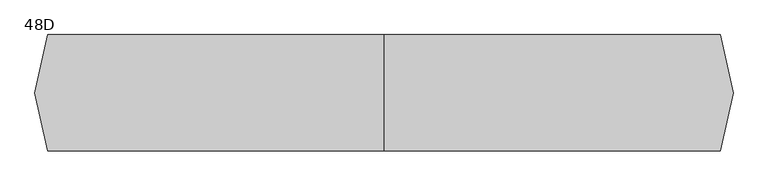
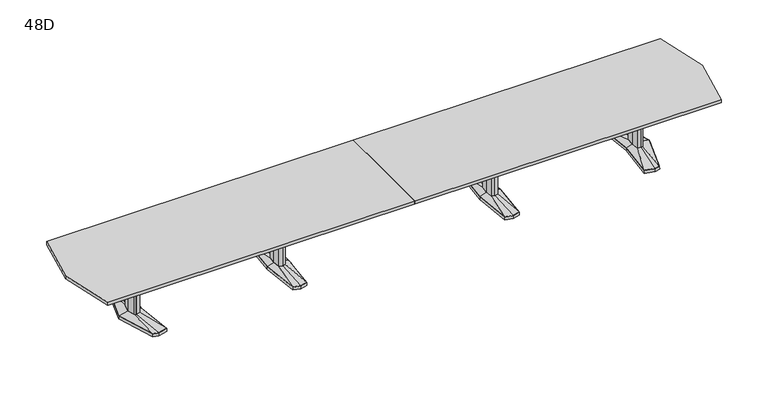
"""IFC4 building model written with IfcOpenShell, lengths in millimetres: furniture geometry, Coalesse_AM_Table_Conference_ETable2_Faceted_24ft_AluminiumBase : 48D."""

import ifcopenshell
import ifcopenshell.guid

model = None  # the IFC model being written
_history = None  # IfcOwnerHistory: only IFC2X3 demands one
_inside = {}  # id of a spatial element -> (the spatial element, [elements in it])
_under = {}  # id of a project, library or spatial element -> (it, [spatial elements below it])
_declared = {}  # id of a project -> (the project, [libraries it declares])
_typed = {}  # id of a type object -> (the type object, [elements of that type])
_made_of = {}  # id of a material, layer set ... -> (it, [elements and type objects made of it])


def new_model(schema):
    """Start an empty IFC model of exactly this schema.

    Asked for "IFC4X3", IfcOpenShell would pick the latest addendum, in which some entities
    have other attributes; the version numbers below select the first issue.
    IFC2X3 requires an IfcOwnerHistory on every rooted entity: one is made here for all.
    """
    global model, _history
    if schema == "IFC4X3":
        model = ifcopenshell.file(schema_version=(4, 3, 0, 0))
    else:
        model = ifcopenshell.file(schema=schema)
    _inside.clear()
    _under.clear()
    _declared.clear()
    _typed.clear()
    _made_of.clear()
    _history = None
    if model.schema == "IFC2X3":
        org = make("IfcOrganization", Name="unknown")
        user = make(
            "IfcPersonAndOrganization",
            ThePerson=make("IfcPerson", FamilyName="unknown"),
            TheOrganization=org,
        )
        app = make(
            "IfcApplication",
            ApplicationDeveloper=org,
            Version="unknown",
            ApplicationFullName="unknown",
            ApplicationIdentifier="unknown",
        )
        _history = make(
            "IfcOwnerHistory",
            OwningUser=user,
            OwningApplication=app,
            ChangeAction="ADDED",
            CreationDate=0,
        )
    return model


def make(cls, **values):
    """One entity of the class cls with the attributes given. An attribute that is None is left unset."""
    return model.create_entity(
        cls, **{name: value for name, value in values.items() if value is not None}
    )


def rooted(cls, **values):
    """An entity with a GlobalId (a new one), such as an element, a storey or a relation."""
    return make(cls, GlobalId=ifcopenshell.guid.new(), OwnerHistory=_history, **values)


def si_unit(unit_type, name, prefix=None):
    """IfcSIUnit, for example si_unit("LENGTHUNIT", "METRE", prefix="MILLI")."""
    return make("IfcSIUnit", UnitType=unit_type, Prefix=prefix, Name=name)


def assignment(units):
    """IfcUnitAssignment: the units of a project."""
    return None if units is None else make("IfcUnitAssignment", Units=units)


def point(xyz):
    """IfcCartesianPoint."""
    return None if xyz is None else make("IfcCartesianPoint", Coordinates=xyz)


def direction(xyz):
    """IfcDirection."""
    return None if xyz is None else make("IfcDirection", DirectionRatios=xyz)


def frame(location, z_axis=None, x_axis=None):
    """IfcAxis2Placement3D, a coordinate frame: its origin and axes. An axis left out is left unset."""
    return make(
        "IfcAxis2Placement3D",
        Location=point(location),
        Axis=direction(z_axis),
        RefDirection=direction(x_axis),
    )


def origin():
    """The frame at (0, 0, 0) with its axes left unset."""
    return frame((0.0, 0.0, 0.0))


def place(relative_to, where):
    """IfcLocalPlacement: puts the frame where relative to a parent placement (None: the world)."""
    return make(
        "IfcLocalPlacement", PlacementRelTo=relative_to, RelativePlacement=where
    )


def context(
    kind, dimensions, precision=None, world=None, true_north=None, identifier=None
):
    """IfcGeometricRepresentationContext, for example the 3D "Model" context."""
    return make(
        "IfcGeometricRepresentationContext",
        ContextIdentifier=identifier,
        ContextType=kind,
        CoordinateSpaceDimension=dimensions,
        Precision=precision,
        WorldCoordinateSystem=world,
        TrueNorth=true_north,
    )


def project(units=None, contexts=None):
    """IfcProject with its units and contexts."""
    return rooted(
        "IfcProject",
        Name="project",
        RepresentationContexts=contexts,
        UnitsInContext=assignment(units),
    )


def spatial(cls, under=None, at=None, **own):
    """A site, building, storey or space (cls), placed at a placement, below another one or the project."""
    s = rooted(cls, ObjectPlacement=at, **own)
    if under is not None:
        _under.setdefault(under.id(), (under, []))[1].append(s)
    return s


def polyline(points):
    """IfcPolyline through the points."""
    return make("IfcPolyline", Points=[point(p) for p in points])


def outline(outer, holes=None, kind="AREA"):
    """IfcArbitraryClosedProfileDef: a profile drawn as a closed curve; with holes, ...WithVoids."""
    if holes is None:
        return make("IfcArbitraryClosedProfileDef", ProfileType=kind, OuterCurve=outer)
    return make(
        "IfcArbitraryProfileDefWithVoids",
        ProfileType=kind,
        OuterCurve=outer,
        InnerCurves=holes,
    )


def extrude(swept, where, along, depth):
    """IfcExtrudedAreaSolid: the profile swept, set in the frame where, extruded along a direction by depth."""
    return make(
        "IfcExtrudedAreaSolid",
        SweptArea=swept,
        Position=where,
        ExtrudedDirection=direction(along),
        Depth=depth,
    )


def faces_of(points, faces, orient=None, outer=None):
    """IfcFace entities. A face is a list of loops; a loop is a list of indices into points, from 0.

    orient and outer hold one flag for each loop. By default every Orientation is true, the
    first loop of a face is its IfcFaceOuterBound and the others are IfcFaceBound.
    """
    made = []
    for i, loops in enumerate(faces):
        bounds = []
        for j, loop in enumerate(loops):
            is_outer = j == 0 if outer is None else outer[i][j]
            bounds.append(
                make(
                    "IfcFaceOuterBound" if is_outer else "IfcFaceBound",
                    Bound=make("IfcPolyLoop", Polygon=[points[k] for k in loop]),
                    Orientation=True if orient is None else orient[i][j],
                )
            )
        made.append(make("IfcFace", Bounds=bounds))
    return made


def faceted_brep(points, faces, orient=None, outer=None, voids=None):
    """IfcFacetedBrep: a solid bounded by flat faces; with voids (closed shells), ...WithVoids."""
    shared = [point(p) for p in points]
    hull = make("IfcClosedShell", CfsFaces=faces_of(shared, faces, orient, outer))
    if voids is None:
        return make("IfcFacetedBrep", Outer=hull)
    return make(
        "IfcFacetedBrepWithVoids",
        Outer=hull,
        Voids=[
            make(cls, CfsFaces=faces_of(shared, fs, o, b)) for cls, fs, o, b in voids
        ],
    )


def shape(context_of_items, identifier, shape_type, items):
    """IfcShapeRepresentation: the items that make up one representation, for example the "Body"."""
    return make(
        "IfcShapeRepresentation",
        ContextOfItems=context_of_items,
        RepresentationIdentifier=identifier,
        RepresentationType=shape_type,
        Items=items,
    )


def source(mapping_origin, context_of_items, identifier, shape_type, items):
    """IfcRepresentationMap: a shape defined once, which mapped items show again and again."""
    return make(
        "IfcRepresentationMap",
        MappingOrigin=mapping_origin,
        MappedRepresentation=shape(context_of_items, identifier, shape_type, items),
    )


def transform(
    local_origin,
    x_axis=None,
    y_axis=None,
    z_axis=None,
    scale=None,
    scale2=None,
    scale3=None,
    uniform=True,
):
    """IfcCartesianTransformationOperator3D, or its non-uniform kind. x_axis, y_axis, z_axis: its Axis1, 2, 3."""
    if uniform:
        return make(
            "IfcCartesianTransformationOperator3D",
            Axis1=direction(x_axis),
            Axis2=direction(y_axis),
            LocalOrigin=point(local_origin),
            Scale=scale,
            Axis3=direction(z_axis),
        )
    return make(
        "IfcCartesianTransformationOperator3DnonUniform",
        Axis1=direction(x_axis),
        Axis2=direction(y_axis),
        LocalOrigin=point(local_origin),
        Scale=scale,
        Axis3=direction(z_axis),
        Scale2=scale2,
        Scale3=scale3,
    )


def mapped(mapping_source, mapping_target):
    """IfcMappedItem: shows the shape of a source again, moved by a transform."""
    return make(
        "IfcMappedItem", MappingSource=mapping_source, MappingTarget=mapping_target
    )


def made_of(thing, what):
    """Note that an element or type object is made of a material, layer set ...; save() writes the relation."""
    if what is not None:
        _made_of.setdefault(what.id(), (what, []))[1].append(thing)
    return thing


def element(
    cls,
    number,
    at=None,
    inside=None,
    cuts=None,
    type_object=None,
    material=None,
    context=None,
    identifier="Body",
    shape_type=None,
    held_by="IfcProductDefinitionShape",
    body=None,
    shapes=None,
    **own,
):
    """One element of the class cls, such as IfcWall. Its Tag is "e" and its number.

    at: its placement. inside: the storey or other place that contains it. cuts: it is an
    opening in that element (IfcRelVoidsElement). A single representation is given by context,
    identifier, shape_type and body (its items); several are given by shapes. held_by: the class
    of the entity that holds the representations. save() writes the other relations.
    """
    e = rooted(cls, Tag="e%d" % number, ObjectPlacement=at, **own)
    if body is not None:
        shapes = [shape(context, identifier, shape_type, body)]
    if shapes is not None:
        e.Representation = make(held_by, Representations=shapes)
    if inside is not None:
        _inside.setdefault(inside.id(), (inside, []))[1].append(e)
    if cuts is not None:
        rooted(
            "IfcRelVoidsElement", RelatingBuildingElement=cuts, RelatedOpeningElement=e
        )
    if type_object is not None:
        _typed.setdefault(type_object.id(), (type_object, []))[1].append(e)
    return made_of(e, material)


def aggregate(whole, parts):
    """IfcRelAggregates: a whole, such as a stair, and the parts it consists of."""
    return rooted("IfcRelAggregates", RelatingObject=whole, RelatedObjects=parts)


def save(model, path):
    """Write the relations noted so far, then the file.

    IfcRelAggregates (storeys below a building ...), IfcRelContainedInSpatialStructure (elements
    in a storey), IfcRelDefinesByType, IfcRelAssociatesMaterial and IfcRelDeclares: one each for
    every whole, place, type object, material and project.
    """
    for whole, parts in _under.values():
        aggregate(whole, parts)
    for where, things in _inside.values():
        rooted(
            "IfcRelContainedInSpatialStructure",
            RelatedElements=things,
            RelatingStructure=where,
        )
    for kind, things in _typed.values():
        rooted("IfcRelDefinesByType", RelatedObjects=things, RelatingType=kind)
    for what, things in _made_of.values():
        rooted("IfcRelAssociatesMaterial", RelatedObjects=things, RelatingMaterial=what)
    for by, libraries in _declared.values():
        rooted("IfcRelDeclares", RelatingContext=by, RelatedDefinitions=libraries)
    model.write(path)


def plane_surface(at):
    """IfcPlane: the flat surface through the origin of the frame at, square to its z axis."""
    return make("IfcPlane", Position=at)


def spline_surface(u_degree, v_degree, points, u_multiplicities, v_multiplicities, u_knots, v_knots, weights=None):
    """IfcBSplineSurfaceWithKnots; with weights, IfcRationalBSplineSurfaceWithKnots. points: one row for each step in u."""
    own = dict(
        UDegree=u_degree,
        VDegree=v_degree,
        ControlPointsList=[[point(p) for p in row] for row in points],
        SurfaceForm="UNSPECIFIED",
        UClosed=False,
        VClosed=False,
        SelfIntersect=False,
        UMultiplicities=u_multiplicities,
        VMultiplicities=v_multiplicities,
        UKnots=u_knots,
        VKnots=v_knots,
        KnotSpec="UNSPECIFIED",
    )
    if weights is None:
        return make("IfcBSplineSurfaceWithKnots", **own)
    return make("IfcRationalBSplineSurfaceWithKnots", WeightsData=weights, **own)


def advanced_brep(points, edges, surfaces, faces):
    """IfcAdvancedBrep: a solid bounded by faces that lie on surfaces and meet in shared edges.

    An edge is (start, end): straight between two places in points (the first is 0);
    or (start, end, curve); or (start, end, curve, False) where it runs against its curve.
    A face is (place in surfaces, loops), or (place, loops, False) where it looks against
    its surface's normal. A loop lists edges by number (the first is 1), with a minus sign
    where the edge is run from its end to its start. The first loop is the outer one.
    """
    corners = [point(p) for p in points]
    vertices = [make("IfcVertexPoint", VertexGeometry=c) for c in corners]
    made = []
    for start, end, *more in edges:
        made.append(
            make(
                "IfcEdgeCurve",
                EdgeStart=vertices[start],
                EdgeEnd=vertices[end],
                EdgeGeometry=more[0] if more else make("IfcPolyline", Points=[corners[start], corners[end]]),
                SameSense=more[1] if len(more) > 1 else True,
            )
        )
    hull = []
    for where, loops, *sense in faces:
        bounds = []
        for j, loop in enumerate(loops):
            ring = [make("IfcOrientedEdge", EdgeElement=made[abs(k) - 1], Orientation=k > 0) for k in loop]
            bounds.append(
                make(
                    "IfcFaceOuterBound" if j == 0 else "IfcFaceBound",
                    Bound=make("IfcEdgeLoop", EdgeList=ring),
                    Orientation=True,
                )
            )
        hull.append(make("IfcAdvancedFace", Bounds=bounds, FaceSurface=surfaces[where], SameSense=sense[0] if sense else True))
    return make("IfcAdvancedBrep", Outer=make("IfcClosedShell", CfsFaces=hull))


def furniture_48d_af3dbdf1(model_context):
    return source(origin(), model_context, "Body", "SolidModel", [
        faceted_brep([(1137.9666209, -433.8053819, 38.1), (1219.2, -455.556576, 38.1), (1300.4333791, -433.8053819, 38.1), (1338.2564774, 0.0, 38.1), (1300.4333791, 433.8053819, 38.1), (1219.2, 455.556576, 38.1), (1137.9666209, 433.8053819, 38.1), (1100.1435226, 0.0, 38.1), (1136.4817205, -435.0512063, 3.175), (1098.55, 0.0, 3.175), (1136.4817205, 435.0512063, 3.175), (1219.2, 457.2, 3.175), (1301.9182795, 435.0512063, 3.175), (1339.85, 0.0, 3.175), (1301.9182795, -435.0512063, 3.175), (1219.2, -457.2, 3.175), (1219.2, 429.2617927, 3.175), (1141.2323194, 408.3850278, 3.175), (1144.4980179, 382.9646737, 3.175), (1219.2, 402.9670094, 3.175), (1293.9019821, 382.9646737, 3.175), (1297.1676806, 408.3850278, 3.175), (1219.2, -429.2617927, 3.175), (1297.1676806, -408.3850278, 3.175), (1293.9019821, -382.9646737, 3.175), (1219.2, -402.9670094, 3.175), (1144.4980179, -382.9646737, 3.175), (1141.2323194, -408.3850278, 3.175), (1147.3425738, 114.6326257, 3.175), (1136.6573924, 0.0, 3.175), (1147.3425738, -114.6326257, 3.175), (1219.2, -133.8761372, 3.175), (1291.0574262, -114.6326257, 3.175), (1301.7426076, 0.0, 3.175), (1291.0574262, 114.6326257, 3.175), (1219.2, 133.8761372, 3.175), (1219.2, 429.2617927, 0.0), (1297.1676806, 408.3850278, 0.0), (1293.9019821, 382.9646737, 0.0), (1219.2, 402.9670094, 0.0), (1144.4980179, 382.9646737, 0.0), (1141.2323194, 408.3850278, 0.0), (1219.2, -429.2617927, 0.0), (1141.2323194, -408.3850278, 0.0), (1144.4980179, -382.9646737, 0.0), (1219.2, -402.9670094, 0.0), (1293.9019821, -382.9646737, 0.0), (1297.1676806, -408.3850278, 0.0), (1147.3425738, 114.6326257, 0.0), (1219.2, 133.8761372, 0.0), (1291.0574262, 114.6326257, 0.0), (1301.7426076, 0.0, 0.0), (1291.0574262, -114.6326257, 0.0), (1219.2, -133.8761372, 0.0), (1147.3425738, -114.6326257, 0.0), (1136.6573924, 0.0, 0.0)], [[[0, 1, 2, 3, 4, 5, 6, 7]], [[8, 9, 10, 11, 12, 13, 14, 15], [16, 17, 18, 19, 20, 21], [22, 23, 24, 25, 26, 27], [28, 29, 30, 31, 32, 33, 34, 35]], [[1, 0, 8, 15]], [[2, 1, 15, 14]], [[3, 2, 14, 13]], [[4, 3, 13, 12]], [[5, 4, 12, 11]], [[6, 5, 11, 10]], [[7, 6, 10, 9]], [[0, 7, 9, 8]], [[36, 37, 38, 39, 40, 41]], [[42, 43, 44, 45, 46, 47]], [[48, 49, 50, 51, 52, 53, 54, 55]], [[36, 41, 17, 16]], [[41, 40, 18, 17]], [[40, 39, 19, 18]], [[39, 38, 20, 19]], [[38, 37, 21, 20]], [[37, 36, 16, 21]], [[42, 47, 23, 22]], [[47, 46, 24, 23]], [[46, 45, 25, 24]], [[45, 44, 26, 25]], [[44, 43, 27, 26]], [[43, 42, 22, 27]], [[48, 55, 29, 28]], [[55, 54, 30, 29]], [[54, 53, 31, 30]], [[53, 52, 32, 31]], [[52, 51, 33, 32]], [[51, 50, 34, 33]], [[50, 49, 35, 34]], [[49, 48, 28, 35]]]),
        faceted_brep([(1182.8167166, 84.6900825, 698.5), (1174.9225513, 0.0, 698.5), (1182.8167166, -84.6900825, 698.5), (1219.2, -94.4335728, 698.5), (1255.5832834, -84.6900825, 698.5), (1263.4774487, 0.0, 698.5), (1255.5832834, 84.6900825, 698.5), (1219.2, 94.4335728, 698.5), (1182.8167166, 84.6900825, 63.5), (1219.2, 94.4335728, 63.5), (1255.5832834, 84.6900825, 63.5), (1263.4774487, 0.0, 63.5), (1255.5832834, -84.6900825, 63.5), (1219.2, -94.4335728, 63.5), (1182.8167166, -84.6900825, 63.5), (1174.9225513, 0.0, 63.5)], [[[0, 1, 2, 3, 4, 5, 6, 7]], [[8, 9, 10, 11, 12, 13, 14, 15]], [[1, 0, 8, 15]], [[2, 1, 15, 14]], [[3, 2, 14, 13]], [[4, 3, 13, 12]], [[5, 4, 12, 11]], [[6, 5, 11, 10]], [[7, 6, 10, 9]], [[0, 7, 9, 8]]]),
        advanced_brep(
        [(1182.8167166, 84.6900825, 63.5), (1174.9225513, 0.0, 63.5), (1182.8167166, -84.6900825, 63.5), (1219.2, -94.4335728, 63.5), (1255.5832834, -84.6900825, 63.5), (1263.4774487, 0.0, 63.5), (1255.5832834, 84.6900825, 63.5), (1219.2, 94.4335728, 63.5), (1137.9666209, 433.8053819, 38.1), (1219.2, 455.556576, 38.1), (1300.4333791, 433.8053819, 38.1), (1338.2564774, 0.0, 38.1), (1300.4333791, -433.8053819, 38.1), (1219.2, -455.556576, 38.1), (1137.9666209, -433.8053819, 38.1), (1100.1435226, 0.0, 38.1)],
        [
            (0, 1),
            (1, 2),
            (2, 3),
            (3, 4),
            (4, 5),
            (5, 6),
            (6, 7),
            (7, 0),
            (8, 9),
            (9, 10),
            (10, 11),
            (11, 12),
            (12, 13),
            (13, 14),
            (14, 15),
            (15, 8),
            (15, 1),
            (0, 8),
            (14, 2),
            (13, 3),
            (12, 4),
            (11, 5),
            (10, 6),
            (9, 7),
        ],
        [
            plane_surface(frame((1219.2, 0.0, 63.5), z_axis=(0.0, 0.0, 1.0000000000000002), x_axis=(-0.9659615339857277, -0.25868574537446, 0.0))),
            plane_surface(frame((1219.2, 0.0, 38.1), z_axis=(0.0, 0.0, -1.0000000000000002), x_axis=(-0.9659615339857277, -0.25868574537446, 0.0))),
            spline_surface(1, 1, [[(1137.9666209, 433.8053819, 38.1), (1182.8167166, 84.6900825, 63.5)], [(1100.1435226, 0.0, 38.1), (1174.9225513, 0.0, 63.5)]], [2, 2], [2, 2], [0.0, 1.0], [0.0, 1.0]),
            spline_surface(1, 1, [[(1100.1435226, 0.0, 38.1), (1174.9225513, 0.0, 63.5)], [(1137.9666209, -433.8053819, 38.1), (1182.8167166, -84.6900825, 63.5)]], [2, 2], [2, 2], [0.0, 1.0], [0.0, 1.0]),
            spline_surface(1, 1, [[(1137.9666209, -433.8053819, 38.1), (1182.8167166, -84.6900825, 63.5)], [(1219.2, -455.556576, 38.1), (1219.2, -94.4335728, 63.5)]], [2, 2], [2, 2], [0.0, 1.0], [0.0, 1.0]),
            spline_surface(1, 1, [[(1219.2, -455.556576, 38.1), (1219.2, -94.4335728, 63.5)], [(1300.4333791, -433.8053819, 38.1), (1255.5832834, -84.6900825, 63.5)]], [2, 2], [2, 2], [0.0, 1.0], [0.0, 1.0]),
            spline_surface(1, 1, [[(1300.4333791, -433.8053819, 38.1), (1255.5832834, -84.6900825, 63.5)], [(1338.2564774, 0.0, 38.1), (1263.4774487, 0.0, 63.5)]], [2, 2], [2, 2], [0.0, 1.0], [0.0, 1.0]),
            spline_surface(1, 1, [[(1338.2564774, 0.0, 38.1), (1263.4774487, 0.0, 63.5)], [(1300.4333791, 433.8053819, 38.1), (1255.5832834, 84.6900825, 63.5)]], [2, 2], [2, 2], [0.0, 1.0], [0.0, 1.0]),
            spline_surface(1, 1, [[(1300.4333791, 433.8053819, 38.1), (1255.5832834, 84.6900825, 63.5)], [(1219.2, 455.556576, 38.1), (1219.2, 94.4335728, 63.5)]], [2, 2], [2, 2], [0.0, 1.0], [0.0, 1.0]),
            spline_surface(1, 1, [[(1219.2, 455.556576, 38.1), (1219.2, 94.4335728, 63.5)], [(1137.9666209, 433.8053819, 38.1), (1182.8167166, 84.6900825, 63.5)]], [2, 2], [2, 2], [0.0, 1.0], [0.0, 1.0]),
        ],
        [
            (0, [[1, 2, 3, 4, 5, 6, 7, 8]]),
            (1, [[9, 10, 11, 12, 13, 14, 15, 16]]),
            (2, [[-16, 17, -1, 18]]),
            (3, [[-15, 19, -2, -17]]),
            (4, [[-14, 20, -3, -19]]),
            (5, [[-13, 21, -4, -20]]),
            (6, [[-12, 22, -5, -21]]),
            (7, [[-11, 23, -6, -22]]),
            (8, [[-10, 24, -7, -23]]),
            (9, [[-9, -18, -8, -24]]),
        ],
    ),
        faceted_brep([(-1300.4333791, -433.8053819, 38.1), (-1219.2, -455.556576, 38.1), (-1137.9666209, -433.8053819, 38.1), (-1100.1435226, 0.0, 38.1), (-1137.9666209, 433.8053819, 38.1), (-1219.2, 455.556576, 38.1), (-1300.4333791, 433.8053819, 38.1), (-1338.2564774, 0.0, 38.1), (-1301.9182795, -435.0512063, 3.175), (-1339.85, 0.0, 3.175), (-1301.9182795, 435.0512063, 3.175), (-1219.2, 457.2, 3.175), (-1136.4817205, 435.0512063, 3.175), (-1098.55, 0.0, 3.175), (-1136.4817205, -435.0512063, 3.175), (-1219.2, -457.2, 3.175), (-1219.2, 429.2617927, 3.175), (-1297.1676806, 408.3850278, 3.175), (-1293.9019821, 382.9646737, 3.175), (-1219.2, 402.9670094, 3.175), (-1144.4980179, 382.9646737, 3.175), (-1141.2323194, 408.3850278, 3.175), (-1219.2, -429.2617927, 3.175), (-1141.2323194, -408.3850278, 3.175), (-1144.4980179, -382.9646737, 3.175), (-1219.2, -402.9670094, 3.175), (-1293.9019821, -382.9646737, 3.175), (-1297.1676806, -408.3850278, 3.175), (-1291.0574262, 114.6326257, 3.175), (-1301.7426076, 0.0, 3.175), (-1291.0574262, -114.6326257, 3.175), (-1219.2, -133.8761372, 3.175), (-1147.3425738, -114.6326257, 3.175), (-1136.6573924, 0.0, 3.175), (-1147.3425738, 114.6326257, 3.175), (-1219.2, 133.8761372, 3.175), (-1219.2, 429.2617927, 0.0), (-1141.2323194, 408.3850278, 0.0), (-1144.4980179, 382.9646737, 0.0), (-1219.2, 402.9670094, 0.0), (-1293.9019821, 382.9646737, 0.0), (-1297.1676806, 408.3850278, 0.0), (-1219.2, -429.2617927, 0.0), (-1297.1676806, -408.3850278, 0.0), (-1293.9019821, -382.9646737, 0.0), (-1219.2, -402.9670094, 0.0), (-1144.4980179, -382.9646737, 0.0), (-1141.2323194, -408.3850278, 0.0), (-1291.0574262, 114.6326257, 0.0), (-1219.2, 133.8761372, 0.0), (-1147.3425738, 114.6326257, 0.0), (-1136.6573924, 0.0, 0.0), (-1147.3425738, -114.6326257, 0.0), (-1219.2, -133.8761372, 0.0), (-1291.0574262, -114.6326257, 0.0), (-1301.7426076, 0.0, 0.0)], [[[0, 1, 2, 3, 4, 5, 6, 7]], [[8, 9, 10, 11, 12, 13, 14, 15], [16, 17, 18, 19, 20, 21], [22, 23, 24, 25, 26, 27], [28, 29, 30, 31, 32, 33, 34, 35]], [[1, 0, 8, 15]], [[2, 1, 15, 14]], [[3, 2, 14, 13]], [[4, 3, 13, 12]], [[5, 4, 12, 11]], [[6, 5, 11, 10]], [[7, 6, 10, 9]], [[0, 7, 9, 8]], [[36, 37, 38, 39, 40, 41]], [[42, 43, 44, 45, 46, 47]], [[48, 49, 50, 51, 52, 53, 54, 55]], [[36, 41, 17, 16]], [[41, 40, 18, 17]], [[40, 39, 19, 18]], [[39, 38, 20, 19]], [[38, 37, 21, 20]], [[37, 36, 16, 21]], [[42, 47, 23, 22]], [[47, 46, 24, 23]], [[46, 45, 25, 24]], [[45, 44, 26, 25]], [[44, 43, 27, 26]], [[43, 42, 22, 27]], [[48, 55, 29, 28]], [[55, 54, 30, 29]], [[54, 53, 31, 30]], [[53, 52, 32, 31]], [[52, 51, 33, 32]], [[51, 50, 34, 33]], [[50, 49, 35, 34]], [[49, 48, 28, 35]]]),
        faceted_brep([(-1255.5832834, 84.6900825, 698.5), (-1263.4774487, 0.0, 698.5), (-1255.5832834, -84.6900825, 698.5), (-1219.2, -94.4335728, 698.5), (-1182.8167166, -84.6900825, 698.5), (-1174.9225513, 0.0, 698.5), (-1182.8167166, 84.6900825, 698.5), (-1219.2, 94.4335728, 698.5), (-1255.5832834, 84.6900825, 63.5), (-1219.2, 94.4335728, 63.5), (-1182.8167166, 84.6900825, 63.5), (-1174.9225513, 0.0, 63.5), (-1182.8167166, -84.6900825, 63.5), (-1219.2, -94.4335728, 63.5), (-1255.5832834, -84.6900825, 63.5), (-1263.4774487, 0.0, 63.5)], [[[0, 1, 2, 3, 4, 5, 6, 7]], [[8, 9, 10, 11, 12, 13, 14, 15]], [[1, 0, 8, 15]], [[2, 1, 15, 14]], [[3, 2, 14, 13]], [[4, 3, 13, 12]], [[5, 4, 12, 11]], [[6, 5, 11, 10]], [[7, 6, 10, 9]], [[0, 7, 9, 8]]]),
        advanced_brep(
        [(-1255.5832834, 84.6900825, 63.5), (-1263.4774487, 0.0, 63.5), (-1255.5832834, -84.6900825, 63.5), (-1219.2, -94.4335728, 63.5), (-1182.8167166, -84.6900825, 63.5), (-1174.9225513, 0.0, 63.5), (-1182.8167166, 84.6900825, 63.5), (-1219.2, 94.4335728, 63.5), (-1300.4333791, 433.8053819, 38.1), (-1219.2, 455.556576, 38.1), (-1137.9666209, 433.8053819, 38.1), (-1100.1435226, 0.0, 38.1), (-1137.9666209, -433.8053819, 38.1), (-1219.2, -455.556576, 38.1), (-1300.4333791, -433.8053819, 38.1), (-1338.2564774, 0.0, 38.1)],
        [
            (0, 1),
            (1, 2),
            (2, 3),
            (3, 4),
            (4, 5),
            (5, 6),
            (6, 7),
            (7, 0),
            (8, 9),
            (9, 10),
            (10, 11),
            (11, 12),
            (12, 13),
            (13, 14),
            (14, 15),
            (15, 8),
            (15, 1),
            (0, 8),
            (14, 2),
            (13, 3),
            (12, 4),
            (11, 5),
            (10, 6),
            (9, 7),
        ],
        [
            plane_surface(frame((-1219.2, 0.0, 63.5), z_axis=(0.0, 0.0, 1.0000000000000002), x_axis=(-0.9659615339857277, -0.25868574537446, 0.0))),
            plane_surface(frame((-1219.2, 0.0, 38.1), z_axis=(0.0, 0.0, -1.0000000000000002), x_axis=(-0.9659615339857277, -0.25868574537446, 0.0))),
            spline_surface(1, 1, [[(-1300.4333791, 433.8053819, 38.1), (-1255.5832834, 84.6900825, 63.5)], [(-1338.2564774, 0.0, 38.1), (-1263.4774487, 0.0, 63.5)]], [2, 2], [2, 2], [0.0, 1.0], [0.0, 1.0]),
            spline_surface(1, 1, [[(-1338.2564774, 0.0, 38.1), (-1263.4774487, 0.0, 63.5)], [(-1300.4333791, -433.8053819, 38.1), (-1255.5832834, -84.6900825, 63.5)]], [2, 2], [2, 2], [0.0, 1.0], [0.0, 1.0]),
            spline_surface(1, 1, [[(-1300.4333791, -433.8053819, 38.1), (-1255.5832834, -84.6900825, 63.5)], [(-1219.2, -455.556576, 38.1), (-1219.2, -94.4335728, 63.5)]], [2, 2], [2, 2], [0.0, 1.0], [0.0, 1.0]),
            spline_surface(1, 1, [[(-1219.2, -455.556576, 38.1), (-1219.2, -94.4335728, 63.5)], [(-1137.9666209, -433.8053819, 38.1), (-1182.8167166, -84.6900825, 63.5)]], [2, 2], [2, 2], [0.0, 1.0], [0.0, 1.0]),
            spline_surface(1, 1, [[(-1137.9666209, -433.8053819, 38.1), (-1182.8167166, -84.6900825, 63.5)], [(-1100.1435226, 0.0, 38.1), (-1174.9225513, 0.0, 63.5)]], [2, 2], [2, 2], [0.0, 1.0], [0.0, 1.0]),
            spline_surface(1, 1, [[(-1100.1435226, 0.0, 38.1), (-1174.9225513, 0.0, 63.5)], [(-1137.9666209, 433.8053819, 38.1), (-1182.8167166, 84.6900825, 63.5)]], [2, 2], [2, 2], [0.0, 1.0], [0.0, 1.0]),
            spline_surface(1, 1, [[(-1137.9666209, 433.8053819, 38.1), (-1182.8167166, 84.6900825, 63.5)], [(-1219.2, 455.556576, 38.1), (-1219.2, 94.4335728, 63.5)]], [2, 2], [2, 2], [0.0, 1.0], [0.0, 1.0]),
            spline_surface(1, 1, [[(-1219.2, 455.556576, 38.1), (-1219.2, 94.4335728, 63.5)], [(-1300.4333791, 433.8053819, 38.1), (-1255.5832834, 84.6900825, 63.5)]], [2, 2], [2, 2], [0.0, 1.0], [0.0, 1.0]),
        ],
        [
            (0, [[1, 2, 3, 4, 5, 6, 7, 8]]),
            (1, [[9, 10, 11, 12, 13, 14, 15, 16]]),
            (2, [[-16, 17, -1, 18]]),
            (3, [[-15, 19, -2, -17]]),
            (4, [[-14, 20, -3, -19]]),
            (5, [[-13, 21, -4, -20]]),
            (6, [[-12, 22, -5, -21]]),
            (7, [[-11, 23, -6, -22]]),
            (8, [[-10, 24, -7, -23]]),
            (9, [[-9, -18, -8, -24]]),
        ],
    ),
        faceted_brep([(2852.8994335, 455.5848221, 38.1), (2743.3218777, 426.2263816, 38.1), (2784.4851217, 0.0, 38.1), (2743.3218777, -426.2263816, 38.1), (2852.8994335, -455.5848221, 38.1), (2909.0257896, -440.5478297, 38.1), (3046.3371769, 0.0, 38.1), (2909.0257896, 440.5478297, 38.1), (2852.8994254, 457.2283104, 3.175), (2910.2811972, 441.8549756, 3.175), (3048.0, 0.0, 3.175), (2910.2811972, -441.8549756, 3.175), (2852.8994254, -457.2283104, 3.175), (2741.6125, -427.4118891, 3.175), (2782.8902356, 0.0, 3.175), (2741.6125, 427.4118891, 3.175), (2856.488865, 428.3273875, 3.175), (2751.4405728, 402.1057253, 3.175), (2759.559268, 377.985069, 3.175), (2860.0782966, 401.0699529, 3.175), (2910.6379225, 387.524361, 3.175), (2909.8318561, 414.0360954, 3.175), (2856.488865, -428.3273875, 3.175), (2909.8318561, -414.0360954, 3.175), (2910.6379225, -387.524361, 3.175), (2860.0782966, -401.0699529, 3.175), (2759.559268, -377.985069, 3.175), (2751.4405728, -402.1057253, 3.175), (2983.0841121, 0.0, 3.175), (2950.8147111, 120.4193755, 3.175), (2902.1674722, 133.471665, 3.175), (2822.2868026, 119.4176561, 3.175), (2811.1555966, 0.0, 3.175), (2822.2868026, -119.4176561, 3.175), (2902.1674722, -133.471665, 3.175), (2950.8147111, -120.4193755, 3.175), (2856.488865, 428.3273875, 0.0), (2909.8318561, 414.0360954, 0.0), (2910.6379225, 387.524361, 0.0), (2860.0782966, 401.0699529, 0.0), (2759.559268, 377.985069, 0.0), (2751.4405728, 402.1057253, 0.0), (2856.488865, -428.3273875, 0.0), (2751.4405728, -402.1057253, 0.0), (2759.559268, -377.985069, 0.0), (2860.0782966, -401.0699529, 0.0), (2910.6379225, -387.524361, 0.0), (2909.8318561, -414.0360954, 0.0), (2983.0841121, 0.0, 0.0), (2950.8147111, -120.4193755, 0.0), (2902.1674722, -133.471665, 0.0), (2822.2868026, -119.4176561, 0.0), (2811.1555966, 0.0, 0.0), (2822.2868026, 119.4176561, 0.0), (2902.1674722, 133.471665, 0.0), (2950.8147111, 120.4193755, 0.0)], [[[0, 1, 2, 3, 4, 5, 6, 7]], [[8, 9, 10, 11, 12, 13, 14, 15], [16, 17, 18, 19, 20, 21], [22, 23, 24, 25, 26, 27], [28, 29, 30, 31, 32, 33, 34, 35]], [[7, 9, 8, 0]], [[6, 10, 9, 7]], [[5, 11, 10, 6]], [[4, 12, 11, 5]], [[3, 13, 12, 4]], [[2, 14, 13, 3]], [[1, 15, 14, 2]], [[0, 8, 15, 1]], [[36, 37, 38, 39, 40, 41]], [[42, 43, 44, 45, 46, 47]], [[48, 49, 50, 51, 52, 53, 54, 55]], [[36, 16, 21, 37]], [[37, 21, 20, 38]], [[38, 20, 19, 39]], [[39, 19, 18, 40]], [[40, 18, 17, 41]], [[41, 17, 16, 36]], [[42, 22, 27, 43]], [[43, 27, 26, 44]], [[44, 26, 25, 45]], [[45, 25, 24, 46]], [[46, 24, 23, 47]], [[47, 23, 22, 42]], [[48, 28, 35, 49]], [[49, 35, 34, 50]], [[50, 34, 33, 51]], [[51, 33, 32, 52]], [[52, 32, 31, 53]], [[53, 31, 30, 54]], [[54, 30, 29, 55]], [[55, 29, 28, 48]]]),
        faceted_brep([(2943.6398336, 0.0, 698.5), (2919.7046046, 89.3188359, 698.5), (2902.8512484, 93.8406728, 698.5), (2900.4514011, 94.4845635, 698.5), (2857.523896, 86.9320037, 698.5), (2849.4207556, 0.0, 698.5), (2857.523896, -86.9320037, 698.5), (2900.4514011, -94.4845635, 698.5), (2902.8512484, -93.8406728, 698.5), (2919.7046046, -89.3188359, 698.5), (2943.6398336, 0.0, 63.5), (2919.7046046, -89.3188359, 63.5), (2902.8512484, -93.8406728, 63.5), (2900.4514011, -94.4845635, 63.5), (2857.523896, -86.9320037, 63.5), (2849.4207556, 0.0, 63.5), (2857.523896, 86.9320037, 63.5), (2900.4514011, 94.4845635, 63.5), (2902.8512484, 93.8406728, 63.5), (2919.7046046, 89.3188359, 63.5)], [[[0, 1, 2, 3, 4, 5, 6, 7, 8, 9]], [[10, 11, 12, 13, 14, 15, 16, 17, 18, 19]], [[9, 11, 10, 0]], [[8, 12, 11, 9]], [[7, 13, 12, 8]], [[6, 14, 13, 7]], [[5, 15, 14, 6]], [[4, 16, 15, 5]], [[3, 17, 16, 4]], [[2, 18, 17, 3]], [[1, 19, 18, 2]], [[0, 10, 19, 1]]]),
        advanced_brep(
        [(2900.4514011, 94.4845635, 63.5), (2857.523896, 86.9320037, 63.5), (2849.4207556, 0.0, 63.5), (2857.523896, -86.9320037, 63.5), (2900.4514011, -94.4845635, 63.5), (2919.7046046, -89.3188359, 63.5), (2943.6398336, 0.0, 63.5), (2919.7046046, 89.3188359, 63.5), (2852.8994335, 455.5848221, 38.1), (2909.0257896, 440.5478297, 38.1), (3046.3371769, 0.0, 38.1), (2909.0257896, -440.5478297, 38.1), (2852.8994335, -455.5848221, 38.1), (2743.3218777, -426.2263816, 38.1), (2784.4851217, 0.0, 38.1), (2743.3218777, 426.2263816, 38.1)],
        [
            (0, 1),
            (1, 2),
            (2, 3),
            (3, 4),
            (4, 5),
            (5, 6),
            (6, 7),
            (7, 0),
            (8, 9),
            (9, 10),
            (10, 11),
            (11, 12),
            (12, 13),
            (13, 14),
            (14, 15),
            (15, 8),
            (8, 0),
            (7, 9),
            (6, 10),
            (5, 11),
            (4, 12),
            (3, 13),
            (2, 14),
            (1, 15),
        ],
        [
            plane_surface(frame((2893.5525491, 0.0, 63.5), z_axis=(0.0, 0.0, 1.0), x_axis=(-0.25884244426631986, -0.9659195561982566, 0.0))),
            plane_surface(frame((2855.1645625, 0.0, 38.1), z_axis=(0.0, 0.0, -1.0), x_axis=(-0.25884244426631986, -0.9659195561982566, 0.0))),
            spline_surface(1, 1, [[(2852.8994335, 455.5848221, 38.1), (2909.0257896, 440.5478297, 38.1)], [(2900.4514011, 94.4845635, 63.5), (2919.7046046, 89.3188359, 63.5)]], [2, 2], [2, 2], [0.0, 1.0], [0.0, 1.0]),
            spline_surface(1, 1, [[(2909.0257896, 440.5478297, 38.1), (3046.3371769, 0.0, 38.1)], [(2919.7046046, 89.3188359, 63.5), (2943.6398336, 0.0, 63.5)]], [2, 2], [2, 2], [0.0, 1.0], [0.0, 1.0]),
            spline_surface(1, 1, [[(3046.3371769, 0.0, 38.1), (2909.0257896, -440.5478297, 38.1)], [(2943.6398336, 0.0, 63.5), (2919.7046046, -89.3188359, 63.5)]], [2, 2], [2, 2], [0.0, 1.0], [0.0, 1.0]),
            spline_surface(1, 1, [[(2909.0257896, -440.5478297, 38.1), (2852.8994335, -455.5848221, 38.1)], [(2919.7046046, -89.3188359, 63.5), (2900.4514011, -94.4845635, 63.5)]], [2, 2], [2, 2], [0.0, 1.0], [0.0, 1.0]),
            spline_surface(1, 1, [[(2852.8994335, -455.5848221, 38.1), (2743.3218777, -426.2263816, 38.1)], [(2900.4514011, -94.4845635, 63.5), (2857.523896, -86.9320037, 63.5)]], [2, 2], [2, 2], [0.0, 1.0], [0.0, 1.0]),
            spline_surface(1, 1, [[(2743.3218777, -426.2263816, 38.1), (2784.4851217, 0.0, 38.1)], [(2857.523896, -86.9320037, 63.5), (2849.4207556, 0.0, 63.5)]], [2, 2], [2, 2], [0.0, 1.0], [0.0, 1.0]),
            spline_surface(1, 1, [[(2784.4851217, 0.0, 38.1), (2743.3218777, 426.2263816, 38.1)], [(2849.4207556, 0.0, 63.5), (2857.523896, 86.9320037, 63.5)]], [2, 2], [2, 2], [0.0, 1.0], [0.0, 1.0]),
            spline_surface(1, 1, [[(2743.3218777, 426.2263816, 38.1), (2852.8994335, 455.5848221, 38.1)], [(2857.523896, 86.9320037, 63.5), (2900.4514011, 94.4845635, 63.5)]], [2, 2], [2, 2], [0.0, 1.0], [0.0, 1.0]),
        ],
        [
            (0, [[1, 2, 3, 4, 5, 6, 7, 8]]),
            (1, [[9, 10, 11, 12, 13, 14, 15, 16]]),
            (2, [[17, -8, 18, -9]]),
            (3, [[-18, -7, 19, -10]]),
            (4, [[-19, -6, 20, -11]]),
            (5, [[-20, -5, 21, -12]]),
            (6, [[-21, -4, 22, -13]]),
            (7, [[-22, -3, 23, -14]]),
            (8, [[-23, -2, 24, -15]]),
            (9, [[-24, -1, -17, -16]]),
        ],
    ),
        faceted_brep([(-2852.8994335, 455.5848221, 38.1), (-2909.0257896, 440.5478297, 38.1), (-3046.3371769, 0.0, 38.1), (-2909.0257896, -440.5478297, 38.1), (-2852.8994335, -455.5848221, 38.1), (-2743.3218777, -426.2263816, 38.1), (-2784.4851217, 0.0, 38.1), (-2743.3218777, 426.2263816, 38.1), (-2852.8994254, 457.2283104, 3.175), (-2741.6125, 427.4118891, 3.175), (-2782.8902356, 0.0, 3.175), (-2741.6125, -427.4118891, 3.175), (-2852.8994254, -457.2283104, 3.175), (-2910.2811972, -441.8549756, 3.175), (-3048.0, 0.0, 3.175), (-2910.2811972, 441.8549756, 3.175), (-2856.488865, 428.3273875, 3.175), (-2909.8318561, 414.0360954, 3.175), (-2910.6379225, 387.524361, 3.175), (-2860.0782966, 401.0699529, 3.175), (-2759.559268, 377.985069, 3.175), (-2751.4405728, 402.1057253, 3.175), (-2856.488865, -428.3273875, 3.175), (-2751.4405728, -402.1057253, 3.175), (-2759.559268, -377.985069, 3.175), (-2860.0782966, -401.0699529, 3.175), (-2910.6379225, -387.524361, 3.175), (-2909.8318561, -414.0360954, 3.175), (-2983.0841121, 0.0, 3.175), (-2950.8147111, -120.4193755, 3.175), (-2902.1674722, -133.471665, 3.175), (-2822.2868026, -119.4176561, 3.175), (-2811.1555966, 0.0, 3.175), (-2822.2868026, 119.4176561, 3.175), (-2902.1674722, 133.471665, 3.175), (-2950.8147111, 120.4193755, 3.175), (-2856.488865, 428.3273875, 0.0), (-2751.4405728, 402.1057253, 0.0), (-2759.559268, 377.985069, 0.0), (-2860.0782966, 401.0699529, 0.0), (-2910.6379225, 387.524361, 0.0), (-2909.8318561, 414.0360954, 0.0), (-2856.488865, -428.3273875, 0.0), (-2909.8318561, -414.0360954, 0.0), (-2910.6379225, -387.524361, 0.0), (-2860.0782966, -401.0699529, 0.0), (-2759.559268, -377.985069, 0.0), (-2751.4405728, -402.1057253, 0.0), (-2983.0841121, 0.0, 0.0), (-2950.8147111, 120.4193755, 0.0), (-2902.1674722, 133.471665, 0.0), (-2822.2868026, 119.4176561, 0.0), (-2811.1555966, 0.0, 0.0), (-2822.2868026, -119.4176561, 0.0), (-2902.1674722, -133.471665, 0.0), (-2950.8147111, -120.4193755, 0.0)], [[[0, 1, 2, 3, 4, 5, 6, 7]], [[8, 9, 10, 11, 12, 13, 14, 15], [16, 17, 18, 19, 20, 21], [22, 23, 24, 25, 26, 27], [28, 29, 30, 31, 32, 33, 34, 35]], [[1, 0, 8, 15]], [[2, 1, 15, 14]], [[3, 2, 14, 13]], [[4, 3, 13, 12]], [[5, 4, 12, 11]], [[6, 5, 11, 10]], [[7, 6, 10, 9]], [[0, 7, 9, 8]], [[36, 37, 38, 39, 40, 41]], [[42, 43, 44, 45, 46, 47]], [[48, 49, 50, 51, 52, 53, 54, 55]], [[36, 41, 17, 16]], [[41, 40, 18, 17]], [[40, 39, 19, 18]], [[39, 38, 20, 19]], [[38, 37, 21, 20]], [[37, 36, 16, 21]], [[42, 47, 23, 22]], [[47, 46, 24, 23]], [[46, 45, 25, 24]], [[45, 44, 26, 25]], [[44, 43, 27, 26]], [[43, 42, 22, 27]], [[48, 55, 29, 28]], [[55, 54, 30, 29]], [[54, 53, 31, 30]], [[53, 52, 32, 31]], [[52, 51, 33, 32]], [[51, 50, 34, 33]], [[50, 49, 35, 34]], [[49, 48, 28, 35]]]),
        faceted_brep([(-2943.6398336, 0.0, 698.5), (-2919.7046046, -89.3188359, 698.5), (-2902.8512484, -93.8406728, 698.5), (-2900.4514011, -94.4845635, 698.5), (-2857.523896, -86.9320037, 698.5), (-2849.4207556, 0.0, 698.5), (-2857.523896, 86.9320037, 698.5), (-2900.4514011, 94.4845635, 698.5), (-2902.8512484, 93.8406728, 698.5), (-2919.7046046, 89.3188359, 698.5), (-2943.6398336, 0.0, 63.5), (-2919.7046046, 89.3188359, 63.5), (-2902.8512484, 93.8406728, 63.5), (-2900.4514011, 94.4845635, 63.5), (-2857.523896, 86.9320037, 63.5), (-2849.4207556, 0.0, 63.5), (-2857.523896, -86.9320037, 63.5), (-2900.4514011, -94.4845635, 63.5), (-2902.8512484, -93.8406728, 63.5), (-2919.7046046, -89.3188359, 63.5)], [[[0, 1, 2, 3, 4, 5, 6, 7, 8, 9]], [[10, 11, 12, 13, 14, 15, 16, 17, 18, 19]], [[1, 0, 10, 19]], [[2, 1, 19, 18]], [[3, 2, 18, 17]], [[4, 3, 17, 16]], [[5, 4, 16, 15]], [[6, 5, 15, 14]], [[7, 6, 14, 13]], [[8, 7, 13, 12]], [[9, 8, 12, 11]], [[0, 9, 11, 10]]]),
        advanced_brep(
        [(-2900.4514011, 94.4845635, 63.5), (-2919.7046046, 89.3188359, 63.5), (-2943.6398336, 0.0, 63.5), (-2919.7046046, -89.3188359, 63.5), (-2900.4514011, -94.4845635, 63.5), (-2857.523896, -86.9320037, 63.5), (-2849.4207556, 0.0, 63.5), (-2857.523896, 86.9320037, 63.5), (-2852.8994335, 455.5848221, 38.1), (-2743.3218777, 426.2263816, 38.1), (-2784.4851217, 0.0, 38.1), (-2743.3218777, -426.2263816, 38.1), (-2852.8994335, -455.5848221, 38.1), (-2909.0257896, -440.5478297, 38.1), (-3046.3371769, 0.0, 38.1), (-2909.0257896, 440.5478297, 38.1)],
        [
            (0, 1),
            (1, 2),
            (2, 3),
            (3, 4),
            (4, 5),
            (5, 6),
            (6, 7),
            (7, 0),
            (8, 9),
            (9, 10),
            (10, 11),
            (11, 12),
            (12, 13),
            (13, 14),
            (14, 15),
            (15, 8),
            (15, 1),
            (0, 8),
            (14, 2),
            (13, 3),
            (12, 4),
            (11, 5),
            (10, 6),
            (9, 7),
        ],
        [
            plane_surface(frame((-2893.5525491, 0.0, 63.5), z_axis=(0.0, 0.0, 1.0), x_axis=(0.25884244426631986, -0.9659195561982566, 0.0))),
            plane_surface(frame((-2855.1645625, 0.0, 38.1), z_axis=(0.0, 0.0, -1.0), x_axis=(0.25884244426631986, -0.9659195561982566, 0.0))),
            spline_surface(1, 1, [[(-2852.8994335, 455.5848221, 38.1), (-2900.4514011, 94.4845635, 63.5)], [(-2909.0257896, 440.5478297, 38.1), (-2919.7046046, 89.3188359, 63.5)]], [2, 2], [2, 2], [0.0, 1.0], [0.0, 1.0]),
            spline_surface(1, 1, [[(-2909.0257896, 440.5478297, 38.1), (-2919.7046046, 89.3188359, 63.5)], [(-3046.3371769, 0.0, 38.1), (-2943.6398336, 0.0, 63.5)]], [2, 2], [2, 2], [0.0, 1.0], [0.0, 1.0]),
            spline_surface(1, 1, [[(-3046.3371769, 0.0, 38.1), (-2943.6398336, 0.0, 63.5)], [(-2909.0257896, -440.5478297, 38.1), (-2919.7046046, -89.3188359, 63.5)]], [2, 2], [2, 2], [0.0, 1.0], [0.0, 1.0]),
            spline_surface(1, 1, [[(-2909.0257896, -440.5478297, 38.1), (-2919.7046046, -89.3188359, 63.5)], [(-2852.8994335, -455.5848221, 38.1), (-2900.4514011, -94.4845635, 63.5)]], [2, 2], [2, 2], [0.0, 1.0], [0.0, 1.0]),
            spline_surface(1, 1, [[(-2852.8994335, -455.5848221, 38.1), (-2900.4514011, -94.4845635, 63.5)], [(-2743.3218777, -426.2263816, 38.1), (-2857.523896, -86.9320037, 63.5)]], [2, 2], [2, 2], [0.0, 1.0], [0.0, 1.0]),
            spline_surface(1, 1, [[(-2743.3218777, -426.2263816, 38.1), (-2857.523896, -86.9320037, 63.5)], [(-2784.4851217, 0.0, 38.1), (-2849.4207556, 0.0, 63.5)]], [2, 2], [2, 2], [0.0, 1.0], [0.0, 1.0]),
            spline_surface(1, 1, [[(-2784.4851217, 0.0, 38.1), (-2849.4207556, 0.0, 63.5)], [(-2743.3218777, 426.2263816, 38.1), (-2857.523896, 86.9320037, 63.5)]], [2, 2], [2, 2], [0.0, 1.0], [0.0, 1.0]),
            spline_surface(1, 1, [[(-2743.3218777, 426.2263816, 38.1), (-2857.523896, 86.9320037, 63.5)], [(-2852.8994335, 455.5848221, 38.1), (-2900.4514011, 94.4845635, 63.5)]], [2, 2], [2, 2], [0.0, 1.0], [0.0, 1.0]),
        ],
        [
            (0, [[1, 2, 3, 4, 5, 6, 7, 8]]),
            (1, [[9, 10, 11, 12, 13, 14, 15, 16]]),
            (2, [[-16, 17, -1, 18]]),
            (3, [[-15, 19, -2, -17]]),
            (4, [[-14, 20, -3, -19]]),
            (5, [[-13, 21, -4, -20]]),
            (6, [[-12, 22, -5, -21]]),
            (7, [[-11, 23, -6, -22]]),
            (8, [[-10, 24, -7, -23]]),
            (9, [[-9, -18, -8, -24]]),
        ],
    ),
        extrude(outline(polyline([(96.8375, 698.5), (103.1875, 698.5), (103.1875, 476.25), (-103.1875, 476.25), (-103.1875, 698.5), (-96.8375, 698.5), (-96.8375, 482.6), (96.8375, 482.6), (96.8375, 698.5)])), frame((1263.4774487, 0.0, 0.0), z_axis=(1.0, 0.0, 0.0), x_axis=(0.0, 1.0, 0.0)), (0.0, 0.0, 1.0), 1586.0850513),
        extrude(outline(polyline([(96.8375, 698.5), (103.1875, 698.5), (103.1875, 476.25), (-103.1875, 476.25), (-103.1875, 698.5), (-96.8375, 698.5), (-96.8375, 482.6), (96.8375, 482.6), (96.8375, 698.5)])), frame((-1174.9225513, 0.0, 0.0), z_axis=(1.0, 0.0, 0.0), x_axis=(0.0, 1.0, 0.0)), (0.0, 0.0, 1.0), 2349.8451026),
        extrude(outline(polyline([(3522.4541794, 609.6), (3657.6, 0.0), (3522.4541794, -609.6), (0.0, -609.6), (0.0, 87.9495918), (0.0, 609.6), (3522.4541794, 609.6)])), frame((0.0, 0.0, 698.5), z_axis=(0.0, 0.0, 1.0), x_axis=(1.0, 0.0, 0.0)), (0.0, 0.0, 1.0), 38.1),
        extrude(outline(polyline([(0.0, 113.3514361), (0.0, -609.6), (-3522.4541794, -609.6), (-3657.6, 0.0), (-3522.4541794, 609.6), (0.0, 609.6), (0.0, 113.3514361)])), frame((0.0, 0.0, 698.5), z_axis=(0.0, 0.0, 1.0), x_axis=(1.0, 0.0, 0.0)), (0.0, 0.0, 1.0), 38.1),
        extrude(outline(polyline([(96.8375, 698.5), (103.1875, 698.5), (103.1875, 476.25), (-103.1875, 476.25), (-103.1875, 698.5), (-96.8375, 698.5), (-96.8375, 482.6), (96.8375, 482.6), (96.8375, 698.5)])), frame((-2849.5625, 0.0, 0.0), z_axis=(1.0, 0.0, 0.0), x_axis=(0.0, 1.0, 0.0)), (0.0, 0.0, 1.0), 1586.0850513),
    ])


if __name__ == "__main__":
    model = new_model("IFC4")
    model_context = context("Model", 3, world=origin())
    ifc_project = project(units=[si_unit("LENGTHUNIT", "METRE", prefix="MILLI")], contexts=[model_context])
    site = spatial("IfcSite", under=ifc_project)
    building = spatial("IfcBuilding", under=site)
    placement = place(None, origin())
    furniture_48d_shape = furniture_48d_af3dbdf1(model_context)
    element("IfcFurniture", 1, ObjectType="Coalesse_AM_Table_Conference_ETable2_Faceted_24ft_AluminiumBase : 48D", at=placement, inside=building, context=model_context, shape_type="MappedRepresentation", body=[
        mapped(furniture_48d_shape, transform((0.0, 0.0, 0.0), x_axis=(1.0, 0.0, 0.0), y_axis=(0.0, 1.0, 0.0), z_axis=(0.0, 0.0, 1.0))),
    ])
    save(model, "model.ifc")
